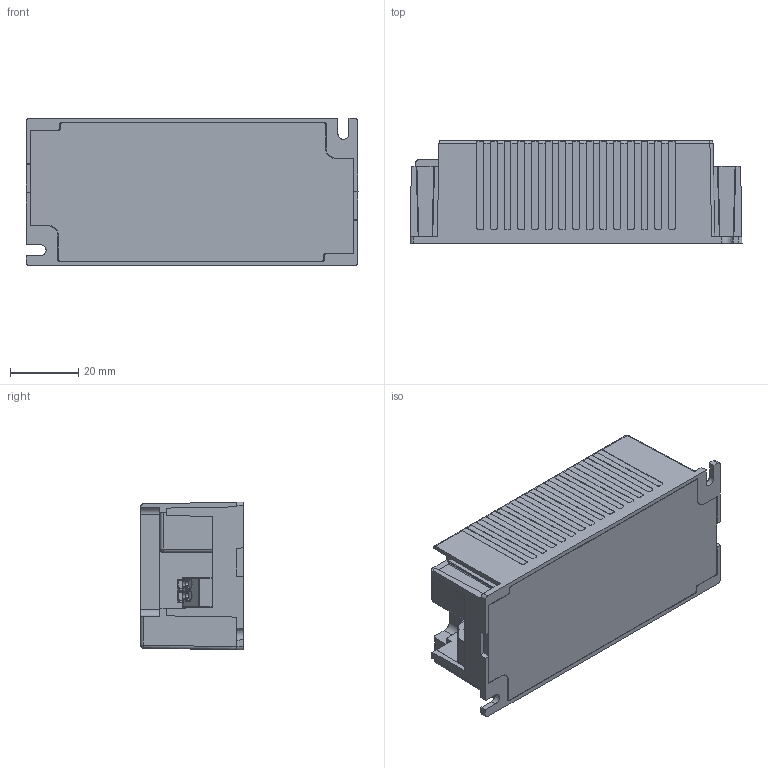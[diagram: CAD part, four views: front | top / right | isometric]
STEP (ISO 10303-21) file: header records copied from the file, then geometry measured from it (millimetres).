
FILE_DESCRIPTION (( 'STEP AP214' ), '1' );
FILE_NAME ('LC27MINI-FD-150-700.STEP', '2021-06-04T09:27:52', ( '' ), ( '' ), 'SwSTEP 2.0', 'SolidWorks 2014', '' );
FILE_SCHEMA (( 'AUTOMOTIVE_DESIGN' ));
Length unit declared in the file: millimetre
Products named in the file (14): ZHUANGPEITU_ASM_88_ASM_ASM_ASM; PCB-27W_3; BOMA-4_4; ZHUANGPEITU-20200910_ASM_4_ASM; BOTTOM_1_1_3; ZHUANGPEITU_ASM_84_ASM_9_ASM_AS_ASM; 11_ASM_1_ASM_ASM_1_ASM_1_ASM; LC27MINI-FD-150-700_20200922__A_ASM; LC27MINI-FD-150-700; PCB-18W_ASM_ASM; 2N-DUANZITAI_1; 35362-0450_2; TOP_1_1_15; 4N_ANY_1_1_1_1_2
Assembly tree (14 placements, depth 6):
  LC27MINI-FD-150-700
    ZHUANGPEITU-20200910_ASM_4_ASM
      ZHUANGPEITU_ASM_84_ASM_9_ASM_AS_ASM
        11_ASM_1_ASM_ASM_1_ASM_1_ASM
          TOP_1_1_15
          BOTTOM_1_1_3
      4N_ANY_1_1_1_1_2
      PCB-18W_ASM_ASM
        LC27MINI-FD-150-700_20200922__A_ASM
          ZHUANGPEITU_ASM_88_ASM_ASM_ASM
            PCB-27W_3
            BOMA-4_4
            2N-DUANZITAI_1  x2
            35362-0450_2
Bounding box: 97 x 30 x 43.2 mm (x, y, z)
Volume: 27842.5 mm3; surface area: 44392.1 mm2
Topology: 8 solids, 8 shells, 1035 faces, 2878 edges, 1901 vertices
Faces by surface type: plane 752, cylinder 213, bspline 56, cone 14
Entity records: 33817 total; most frequent: CARTESIAN_POINT 10494, ORIENTED_EDGE 5184, DIRECTION 4034, EDGE_CURVE 2592, VECTOR 1980, LINE 1980, VERTEX_POINT 1713, AXIS2_PLACEMENT_3D 1027
